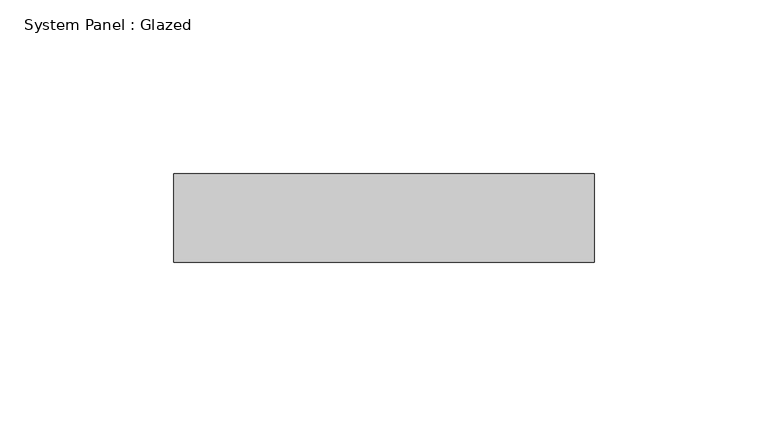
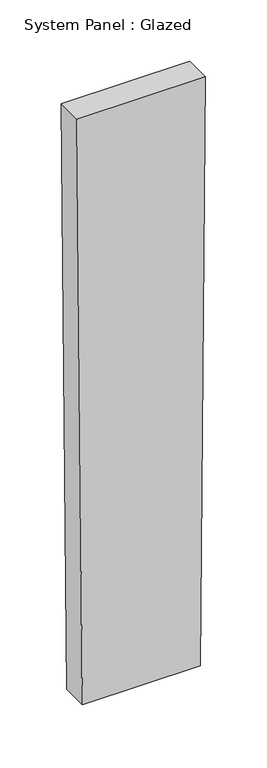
"""IFC4 building model written with IfcOpenShell, lengths in millimetres: plate geometry, System Panel : Glazed."""

from ifc_helpers import new_model, si_unit, frame, origin, place, context, project, spatial, polyline, outline, extrude, source, transform, mapped, element, save


def system_panel_glazed_3a908c5d(model_context):
    return source(origin(), model_context, "Body", "SweptSolid", [
        extrude(outline(polyline([(0.0, -55.4473248), (0.0, 55.4473248), (584.1781227, 60.3966552), (584.1781227, -60.3966552), (0.0, -55.4473248)])), frame((0.0, -44.45, 0.0), z_axis=(0.0, 1.0, 0.0), x_axis=(0.0, 0.0, 1.0)), (0.0, 0.0, 1.0), 25.4),
    ])


if __name__ == "__main__":
    model = new_model("IFC4")
    model_context = context("Model", 3, world=origin())
    ifc_project = project(units=[si_unit("LENGTHUNIT", "METRE", prefix="MILLI")], contexts=[model_context])
    site = spatial("IfcSite", under=ifc_project)
    building = spatial("IfcBuilding", under=site)
    placement = place(None, origin())
    system_panel_glazed_shape = system_panel_glazed_3a908c5d(model_context)
    element("IfcPlate", 1, ObjectType="System Panel : Glazed", at=placement, inside=building, context=model_context, shape_type="MappedRepresentation", body=[
        mapped(system_panel_glazed_shape, transform((0.0, 0.0, 0.0), x_axis=(1.0, 0.0, 0.0), y_axis=(0.0, 1.0, 0.0), z_axis=(0.0, 0.0, 1.0))),
    ])
    save(model, "model.ifc")
